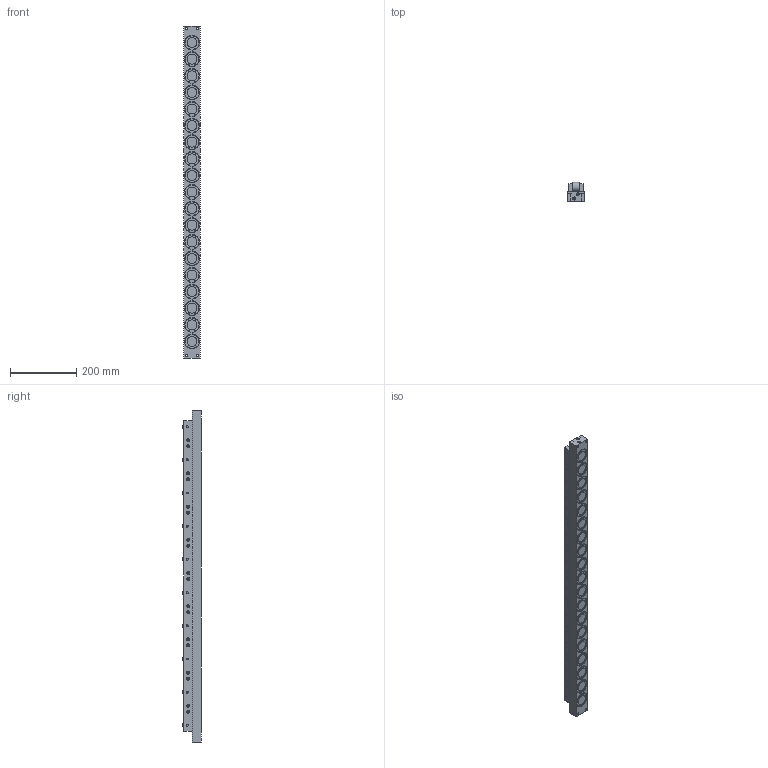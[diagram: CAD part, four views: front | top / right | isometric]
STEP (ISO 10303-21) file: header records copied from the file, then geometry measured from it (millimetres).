
FILE_DESCRIPTION (( 'STEP AP203' ), '1' );
FILE_NAME ('PVLR55SL-10.STEP', '2021-10-14T02:25:04', ( '' ), ( '' ), 'SwSTEP 2.0', 'SolidWorks 2013', '' );
FILE_SCHEMA (( 'CONFIG_CONTROL_DESIGN' ));
Length unit declared in the file: millimetre
Products named in the file (1): PVLR55SL-10
Bounding box: 49 x 57 x 1000 mm (x, y, z)
Volume: 2073981.7 mm3; surface area: 396864.4 mm2
Topology: 2 solids, 2 shells, 1347 faces, 3321 edges, 2160 vertices
Faces by surface type: plane 717, cylinder 622, cone 8
Entity records: 40424 total; most frequent: DIRECTION 7455, CARTESIAN_POINT 6825, ORIENTED_EDGE 6634, EDGE_CURVE 3317, AXIS2_PLACEMENT_3D 2790, VERTEX_POINT 2160, LINE 1875, VECTOR 1875
